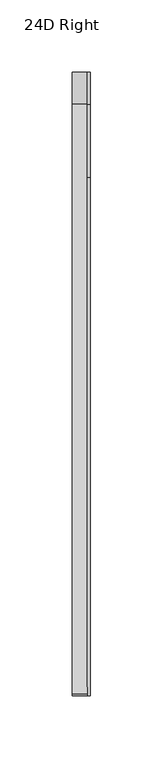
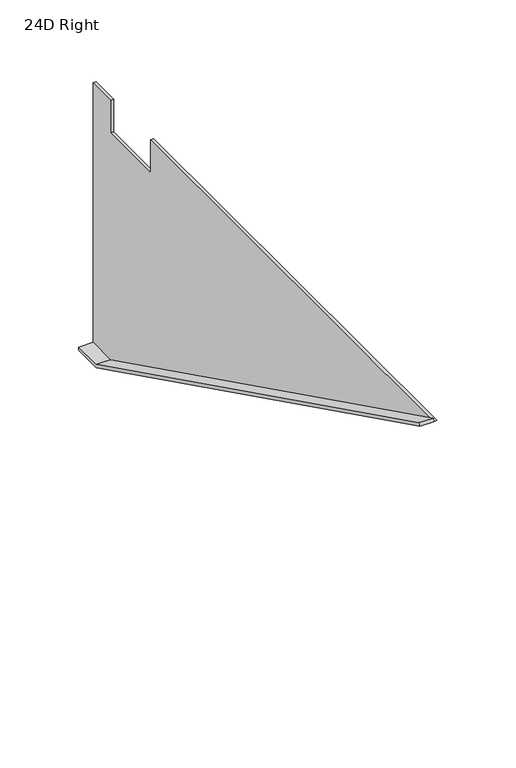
"""IFC4 building model written with IfcOpenShell, lengths in millimetres: furniture geometry, HermanMiller_Ethospace_E2393_WorkSurfaceSupport : 24D Right."""

from ifc_helpers import new_model, si_unit, frame, origin, place, context, project, spatial, polyline, outline, extrude, source, transform, mapped, element, save


def furniture_24d_right_b8f5cfed(model_context):
    return source(origin(), model_context, "Body", "SweptSolid", [
        extrude(outline(polyline([(254.0, 505.5235), (254.0, 503.2375), (231.775, 503.2375), (-178.0807823, 706.4375), (-177.0653655, 708.4856027), (232.3105764, 505.5235), (254.0, 505.5235)])), frame((-12.7, 0.0, 0.0), z_axis=(1.0, 0.0, 0.0), x_axis=(0.0, 1.0, 0.0)), (0.0, 0.0, 1.0), 10.414),
        extrude(outline(polyline([(254.0, 706.4375), (254.0, 503.2375), (231.775, 503.2375), (-178.0807823, 706.4375), (180.975, 706.4375), (180.975, 681.0375), (231.775, 681.0375), (231.775, 706.4375), (254.0, 706.4375)])), frame((-2.286, 0.0, 0.0), z_axis=(1.0, 0.0, 0.0), x_axis=(0.0, 1.0, 0.0)), (0.0, 0.0, 1.0), 2.286),
    ])


if __name__ == "__main__":
    model = new_model("IFC4")
    model_context = context("Model", 3, world=origin())
    ifc_project = project(units=[si_unit("LENGTHUNIT", "METRE", prefix="MILLI")], contexts=[model_context])
    site = spatial("IfcSite", under=ifc_project)
    building = spatial("IfcBuilding", under=site)
    placement = place(None, origin())
    furniture_24d_right_shape = furniture_24d_right_b8f5cfed(model_context)
    element("IfcFurniture", 1, ObjectType="HermanMiller_Ethospace_E2393_WorkSurfaceSupport : 24D Right", at=placement, inside=building, context=model_context, shape_type="MappedRepresentation", body=[
        mapped(furniture_24d_right_shape, transform((0.0, 0.0, 0.0), x_axis=(1.0, 0.0, 0.0), y_axis=(0.0, 1.0, 0.0), z_axis=(0.0, 0.0, 1.0))),
    ])
    save(model, "model.ifc")
